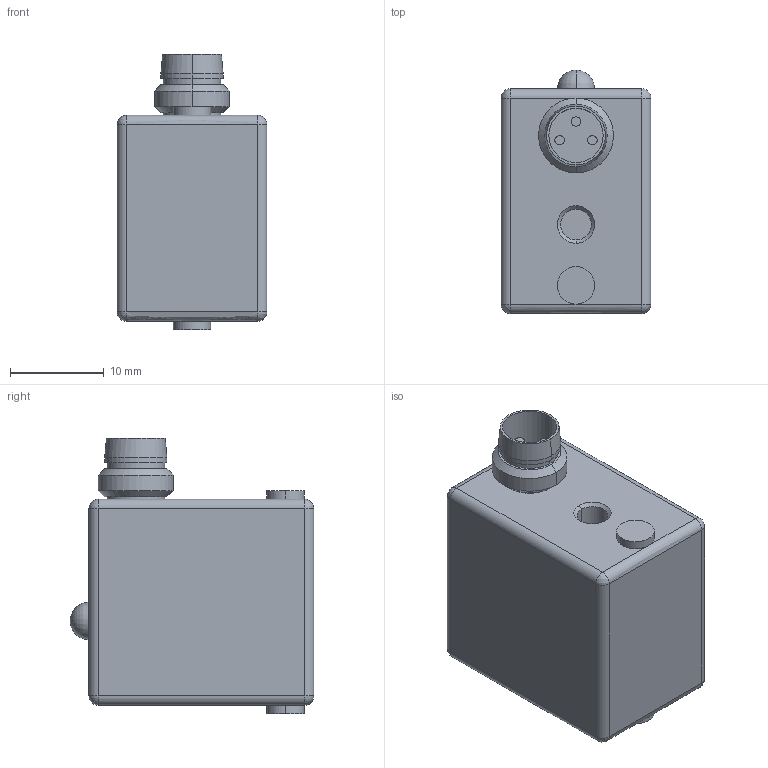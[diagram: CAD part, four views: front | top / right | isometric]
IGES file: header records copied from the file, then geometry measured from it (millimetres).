
Start section:  PTC IGES file: 0830100465\0830100465.iges
Global section: file name: 0830100465\0830100465.iges; native system: Creo Parametric by PTC Inc.; preprocessor: 2020044; author: VAU3HC; organization: Unknown; date: 20230802.184024; units: millimetre
Bounding box: 16 x 26 x 29.4 mm (x, y, z)
Surface area: 2904.6 mm2 (no closed solid volume)
Topology: 0 solids, 0 shells, 74 faces, 298 edges, 295 vertices
Faces by surface type: revolution 56, bspline 18
